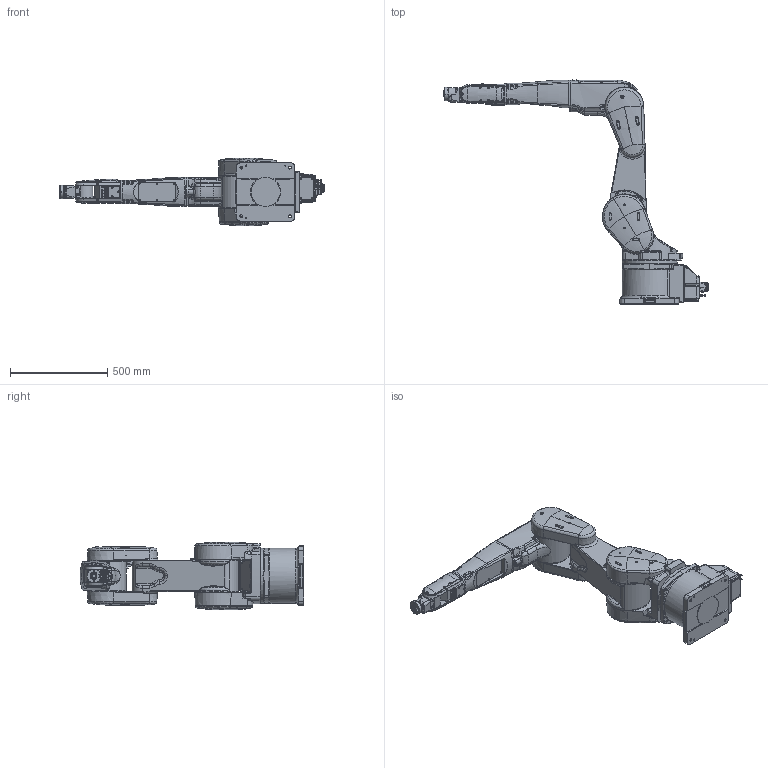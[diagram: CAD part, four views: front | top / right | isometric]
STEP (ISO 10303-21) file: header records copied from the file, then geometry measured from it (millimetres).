
FILE_DESCRIPTION((''),'2;1');
FILE_NAME('RV-7FRLL-SH_ASM','2017-05-25T',('PC32302'),(''),'PRO/ENGINEER BY PARAMETRIC TECHNOLOGY CORPORATION, 2014310','PRO/ENGINEER BY PARAMETRIC TECHNOLOGY CORPORATION, 2014310','');
FILE_SCHEMA(('CONFIG_CONTROL_DESIGN'));
Length unit declared in the file: millimetre
Products named in the file (9): RV-7FRLL-SH_SKELTON; RV-13FR_BASE_01; RV-13F_SHOULDER_02; RV-13FL_NO1ARM_03; RV-13F_ELBOW_04; RV-7FLL_NO2ARM; RV-4F-SH_WRIST_05; RV-4F-SH_HAND_FLANGE_06; RV-7FRLL-SH_ASM
Assembly tree (8 placements, depth 2):
  RV-7FRLL-SH_ASM
    RV-7FRLL-SH_SKELTON
    RV-13FR_BASE_01
    RV-13F_SHOULDER_02
    RV-13FL_NO1ARM_03
    RV-13F_ELBOW_04
    RV-7FLL_NO2ARM
    RV-4F-SH_WRIST_05
    RV-4F-SH_HAND_FLANGE_06
Bounding box: 1362.5 x 1152.11 x 348.47 mm (x, y, z)
Volume: 73027584.3 mm3; surface area: 2482841.7 mm2
Topology: 7 solids, 10 shells, 3818 faces, 9555 edges, 5993 vertices
Faces by surface type: cylinder 1371, plane 1057, bspline 761, torus 303, cone 270, sphere 46, extrusion 5, revolution 5
Entity records: 265744 total; most frequent: CARTESIAN_POINT 180778, ORIENTED_EDGE 19058, DIRECTION 15861, EDGE_CURVE 9529, AXIS2_PLACEMENT_3D 6293, VERTEX_POINT 5993, EDGE_LOOP 4120, FACE_OUTER_BOUND 3818
